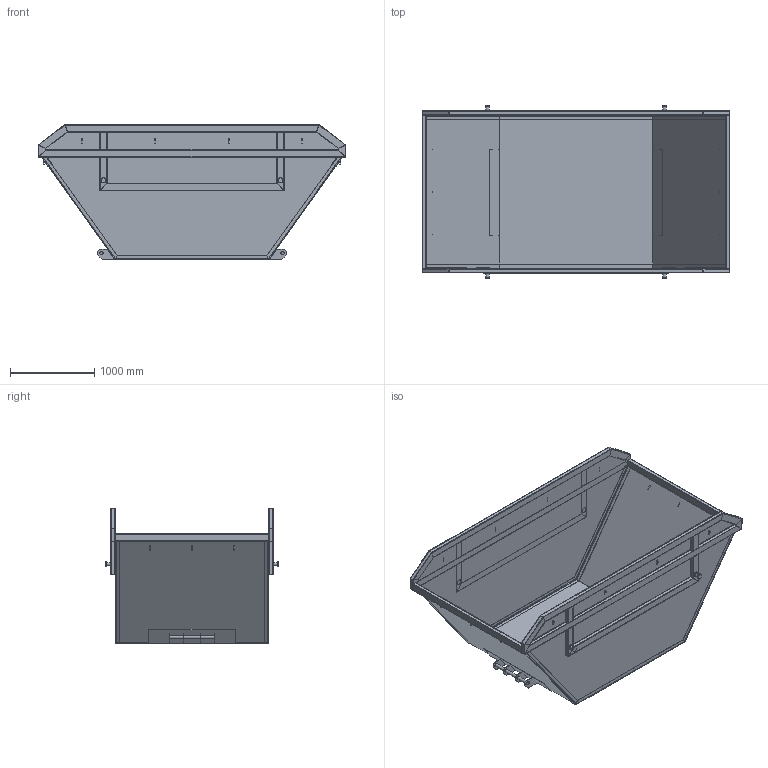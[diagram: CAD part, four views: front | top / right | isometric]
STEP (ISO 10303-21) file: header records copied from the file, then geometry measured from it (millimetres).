
FILE_DESCRIPTION(/* description */ (''),/* implementation_level */ '2;1');
FILE_NAME(/* name */ 'C:/Users/Vlada/Downloads/WasteContainer v1.step',/* time_stamp */ '2017-07-10T18:14:58+02:00',/* author */ (''),/* organization */ (''),/* preprocessor_version */ 'ST-DEVELOPER v16.13',/* originating_system */ 'Autodesk Translation Framework v6.1.1.50',/* authorisation */ '');
FILE_SCHEMA (('AUTOMOTIVE_DESIGN { 1 0 10303 214 3 1 1 }'));
Length unit declared in the file: millimetre
Products named in the file (1): WasteContainer v1
Bounding box: 3650 x 2062 x 1600 mm (x, y, z)
Volume: 81694546.5 mm3; surface area: 51903986.4 mm2
Topology: 63 solids, 63 shells, 756 faces, 1828 edges, 1206 vertices
Faces by surface type: plane 466, cylinder 276, torus 14
Full cylindrical faces by diameter (mm): 10 x28, 40 x6, 41 x8, 60 x4, 61 x8
Entity records: 21813 total; most frequent: DIRECTION 3820, CARTESIAN_POINT 3711, ORIENTED_EDGE 3508, EDGE_CURVE 1754, AXIS2_PLACEMENT_3D 1309, LINE 1202, VECTOR 1202, VERTEX_POINT 1200
